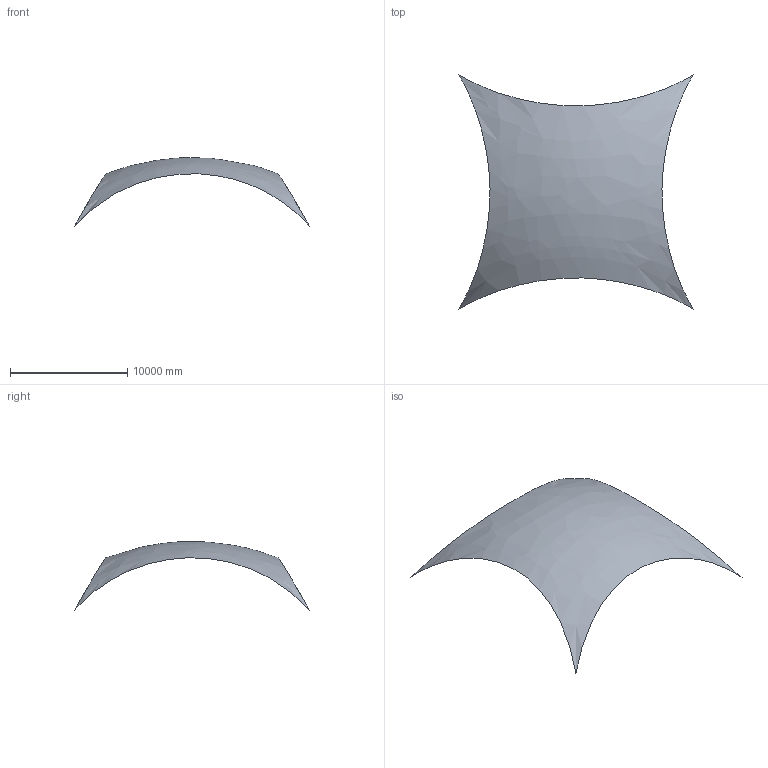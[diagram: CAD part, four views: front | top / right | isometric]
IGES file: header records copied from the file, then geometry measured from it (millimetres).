
Global section: file name: C:\Documents and Settings\Florent\Bureau\Shell4Points_lineapprox.igs; native system: Rhinoceros ( Jan 18 2007 ); preprocessor: Trout Lake IGES 012 Jan 18 2007; date: 090605.160852; units: metre
Bounding box: 20000 x 20000 x 5820.27 mm (x, y, z)
Surface area: 271569941.1 mm2 (no closed solid volume)
Topology: 0 solids, 0 shells, 1 faces, 4 edges, 4 vertices
Faces by surface type: bspline 1
